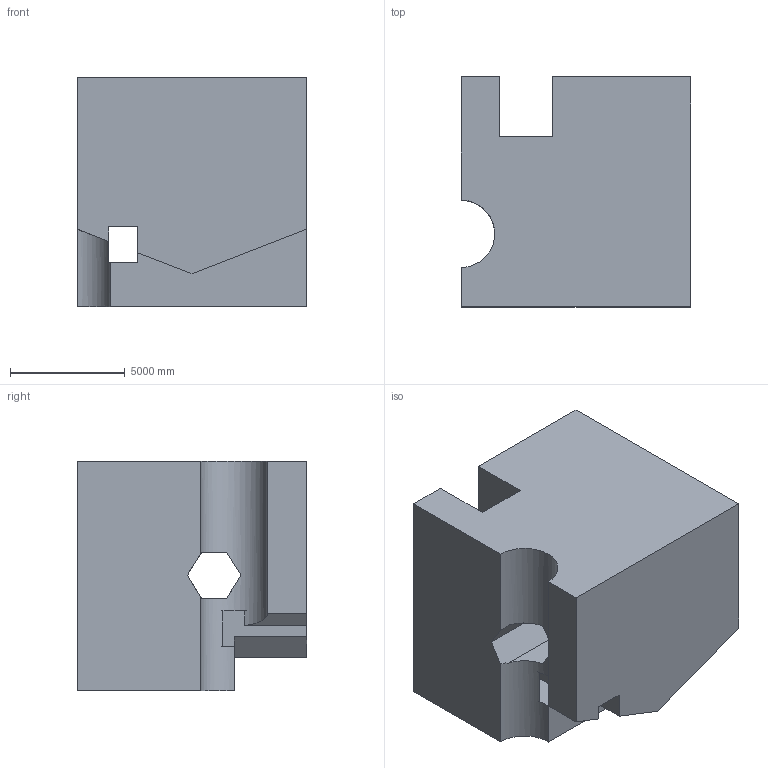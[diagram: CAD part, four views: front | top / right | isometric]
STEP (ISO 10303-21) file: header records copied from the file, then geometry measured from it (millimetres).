
FILE_DESCRIPTION (( 'STEP AP203' ), '1' );
FILE_NAME ('103.STEP', '2022-08-31T11:35:16', ( 'user' ), ( '' ), 'SwSTEP 2.0', 'SolidWorks 2021', '' );
FILE_SCHEMA (( 'CONFIG_CONTROL_DESIGN' ));
Length unit declared in the file: centimetre
Products named in the file (1): 103
Bounding box: 10000 x 10000 x 10000 mm (x, y, z)
Volume: 749347715894.9 mm3; surface area: 733596543.6 mm2
Topology: 1 solids, 1 shells, 32 faces, 99 edges, 66 vertices
Faces by surface type: plane 31, cylinder 1
Entity records: 1174 total; most frequent: CARTESIAN_POINT 213, ORIENTED_EDGE 198, DIRECTION 166, EDGE_CURVE 99, LINE 88, VECTOR 88, VERTEX_POINT 66, AXIS2_PLACEMENT_3D 39
